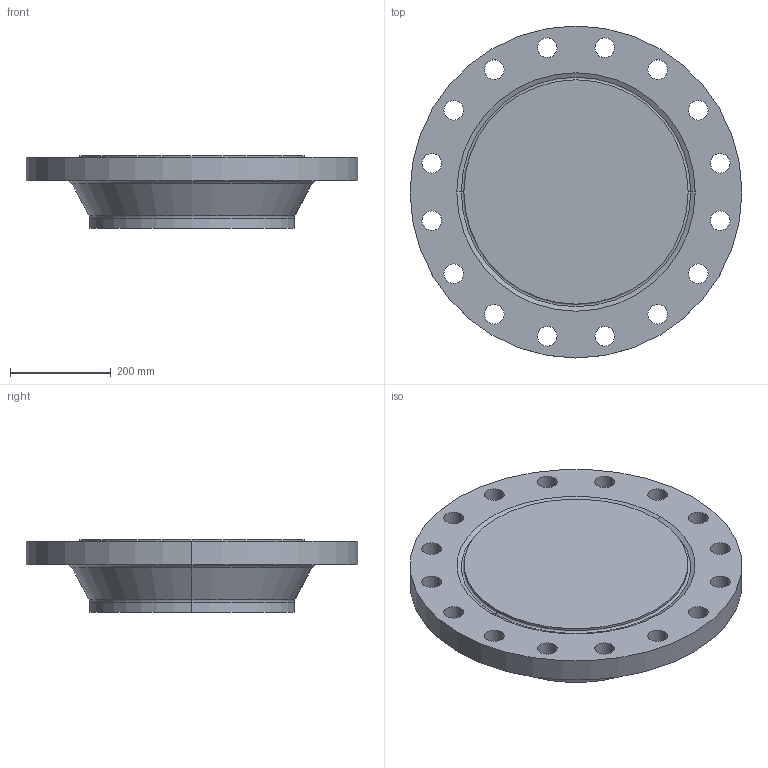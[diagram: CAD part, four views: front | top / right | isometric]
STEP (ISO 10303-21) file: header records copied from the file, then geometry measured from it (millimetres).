
FILE_DESCRIPTION (( 'STEP AP214' ), '1' );
FILE_NAME ('PN40 DN400 Type 21(ii) - Type H Face.STEP', '2019-01-05T23:08:19', ( '' ), ( '' ), 'SwSTEP 2.0', 'SolidWorks 2019', '' );
FILE_SCHEMA (( 'AUTOMOTIVE_DESIGN' ));
Length unit declared in the file: millimetre
Products named in the file (1): PN40 DN400 Type 21(ii) - Type H Face
Bounding box: 660 x 660 x 145 mm (x, y, z)
Volume: 29812189.5 mm3; surface area: 933754.7 mm2
Topology: 1 solids, 1 shells, 52 faces, 134 edges, 86 vertices
Faces by surface type: cylinder 38, torus 6, cone 4, plane 4
Entity records: 1728 total; most frequent: DIRECTION 332, CARTESIAN_POINT 273, ORIENTED_EDGE 268, AXIS2_PLACEMENT_3D 145, EDGE_CURVE 134, CIRCLE 92, VERTEX_POINT 86, EDGE_LOOP 86
